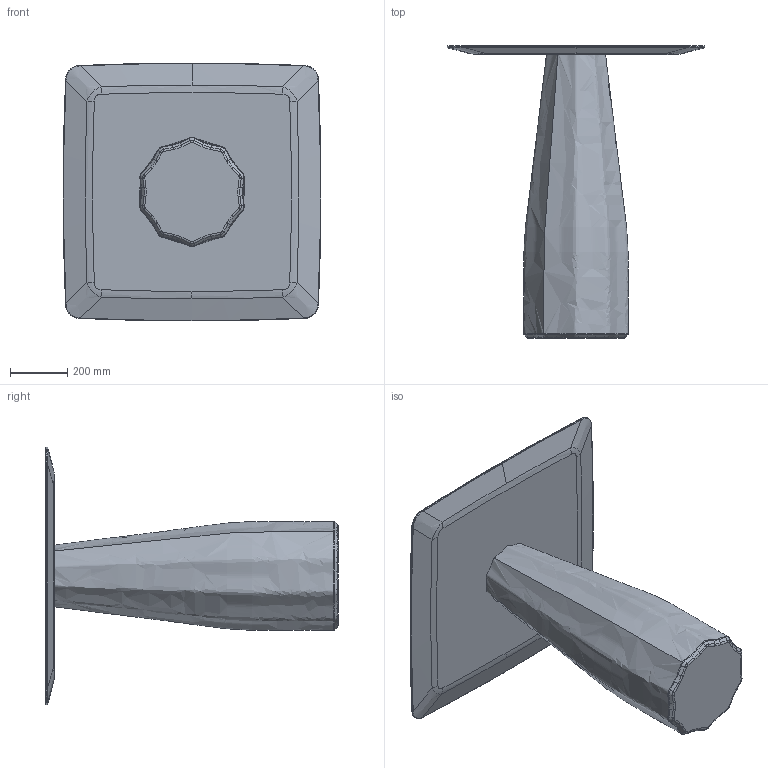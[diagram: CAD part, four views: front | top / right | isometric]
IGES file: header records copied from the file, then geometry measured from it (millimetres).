
Start section: SolidWorks IGES file using analytic representation for surfaces
Global section: file name: Z:\01-VICCARBE\VICCARBE TECNICO 2018\6.-Studio VCCB\Otros\Burin\Modelado\WEB\Nueva carpeta\BurinH100C90.IGS; native system: SolidWorks 2013; preprocessor: SolidWorks 2013; author: Usuario; date: 190219.124039; units: millimetre
Bounding box: 899.19 x 1020 x 899.6 mm (x, y, z)
Volume: 98552752.7 mm3; surface area: 2750063 mm2
Topology: 2 solids, 2 shells, 199 faces, 511 edges, 296 vertices
Faces by surface type: bspline 162, revolution 33, plane 4
